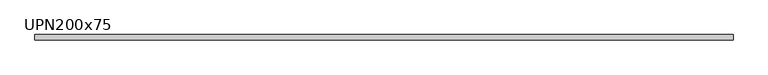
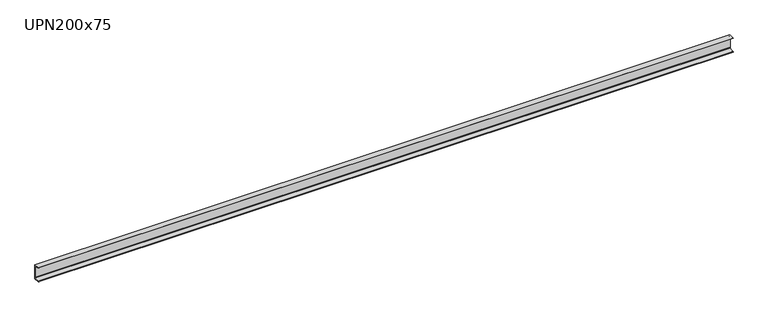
"""IFC4 building model written with IfcOpenShell, lengths in millimetres: beam geometry, M_MC Shapes : UPN200x75."""

from ifc_helpers import new_model, si_unit, point, frame, frame_2d, origin, place, context, project, spatial, polyline, circle_curve, trimmed, segment, composite_curve, outline, extrude, source, transform, mapped, element, save


def upn200x75_7de89c9f(model_context):
    return source(origin(), model_context, "Body", "SweptSolid", [
        extrude(outline(composite_curve([segment(polyline([(10.9, 100.0), (10.9, -100.0), (-64.1, -100.0), (-64.1, -99.0253247)]), True, "CONTINUOUS"), segment(trimmed(circle_curve(frame_2d((-60.15, -99.0253247)), 3.95), [point((-64.1, -99.0253247))], [point((-60.7993773, -95.1290689))], False, "CARTESIAN"), True, "CONTINUOUS"), segment(polyline([(-60.7993773, -95.1290689), (-0.2512455, -85.0376935)]), True, "CONTINUOUS"), segment(trimmed(circle_curve(frame_2d((-1.55, -77.2451819)), 7.9), [point((-0.2512455, -85.0376935))], [point((6.35, -77.2451819))], True, "CARTESIAN"), True, "CONTINUOUS"), segment(polyline([(6.35, -77.2451819), (6.35, 77.2451819)]), True, "CONTINUOUS"), segment(trimmed(circle_curve(frame_2d((-1.55, 77.2451819)), 7.9), [point((6.35, 77.2451819))], [point((-0.2512455, 85.0376935))], True, "CARTESIAN"), True, "CONTINUOUS"), segment(polyline([(-0.2512455, 85.0376935), (-60.7993773, 95.1290689)]), True, "CONTINUOUS"), segment(trimmed(circle_curve(frame_2d((-60.15, 99.0253247)), 3.95), [point((-60.7993773, 95.1290689))], [point((-64.1, 99.0253247))], False, "CARTESIAN"), True, "CONTINUOUS"), segment(polyline([(-64.1, 99.0253247), (-64.1, 100.0), (10.9, 100.0)]), True, "CONTINUOUS")], self_intersect=False)), frame((-4699.95, 0.0, 0.0), z_axis=(1.0, 0.0, 0.0), x_axis=(0.0, 1.0, 0.0)), (0.0, 0.0, 1.0), 9399.9),
    ])


if __name__ == "__main__":
    model = new_model("IFC4")
    model_context = context("Model", 3, world=origin())
    ifc_project = project(units=[si_unit("LENGTHUNIT", "METRE", prefix="MILLI")], contexts=[model_context])
    site = spatial("IfcSite", under=ifc_project)
    building = spatial("IfcBuilding", under=site)
    placement = place(None, origin())
    upn200x75_shape = upn200x75_7de89c9f(model_context)
    element("IfcBeam", 1, ObjectType="M_MC Shapes : UPN200x75", at=placement, inside=building, context=model_context, shape_type="MappedRepresentation", body=[
        mapped(upn200x75_shape, transform((0.0, 0.0, 0.0), x_axis=(1.0, 0.0, 0.0), y_axis=(0.0, 1.0, 0.0), z_axis=(0.0, 0.0, 1.0))),
    ])
    save(model, "model.ifc")
